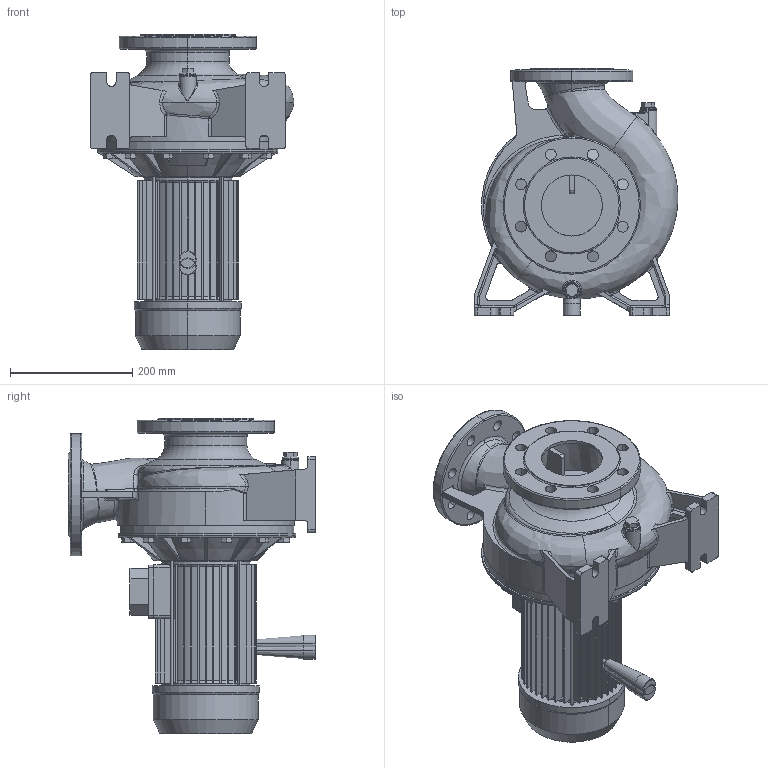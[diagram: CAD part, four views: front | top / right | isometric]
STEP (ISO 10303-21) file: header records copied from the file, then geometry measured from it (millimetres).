
FILE_DESCRIPTION((''),'2;1');
FILE_NAME('3M4_80-160_1_5_IE2_ASM','2012-03-14T',('Rosa'),('"Ebara Pumps Europe +39.444.706811"'),'PRO/ENGINEER BY PARAMETRIC TECHNOLOGY CORPORATION, 2009360','PRO/ENGINEER BY PARAMETRIC TECHNOLOGY CORPORATION, 2009360','');
FILE_SCHEMA(('AUTOMOTIVE_DESIGN { 1 0 10303 214 1 1 1 1 }'));
Length unit declared in the file: millimetre
Products named in the file (5): CORPO_POMPA_80-160; SUPPORTO_3M_230_90; MEC_90X160_IE2; 72180; 3M4_80-160_1_5_IE2_ASM
Assembly tree (5 placements, depth 2):
  3M4_80-160_1_5_IE2_ASM
    CORPO_POMPA_80-160
    SUPPORTO_3M_230_90
    MEC_90X160_IE2
    72180  x2
Bounding box: 333.67 x 405 x 516 mm (x, y, z)
Volume: 14350777.3 mm3; surface area: 1243510.6 mm2
Topology: 5 solids, 5 shells, 920 faces, 2293 edges, 1419 vertices
Faces by surface type: plane 479, cylinder 210, bspline 98, cone 90, torus 33, sphere 10
Entity records: 42143 total; most frequent: CARTESIAN_POINT 13031, ORIENTED_EDGE 4556, DIRECTION 4180, EDGE_CURVE 2278, PRESENTATION_STYLE_ASSIGNMENT 2267, STYLED_ITEM 2267, CURVE_STYLE 2264, AXIS2_PLACEMENT_3D 1504
